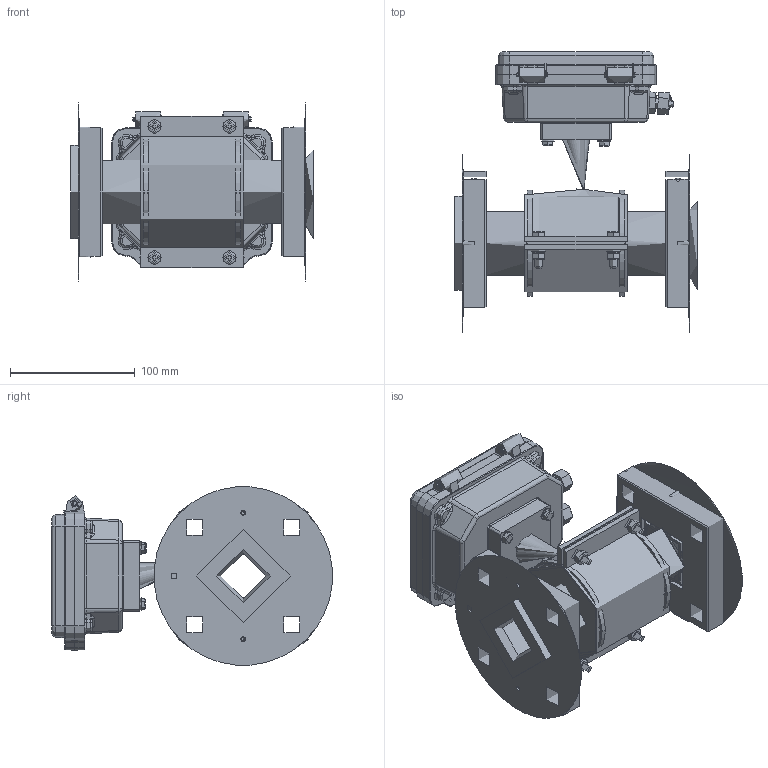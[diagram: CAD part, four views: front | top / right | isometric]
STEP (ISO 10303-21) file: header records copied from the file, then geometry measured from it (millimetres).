
FILE_DESCRIPTION(('STEP AP214'), '1');
FILE_NAME('Âçëåò ÝÐ ÏÐÎÔÈ DN40 Ôëàíåö', '', ('UNSPECIFIED'), ('UNSPECIFIED'), 'ASCON STEP Converter 1.6', 'ASCON Math Kernel', '');
FILE_SCHEMA(('AUTOMOTIVE_DESIGN { 1 0 10303 214 3 1 1}'));
Length unit declared in the file: millimetre
Products named in the file (1): 婽挭.407212.031-031.07
Bounding box: 194 x 224.44 x 142.46 mm (x, y, z)
Topology: 9 solids, 14 shells, 1273 faces, 3070 edges, 1856 vertices
Faces by surface type: plane 523, cylinder 390, cone 181, torus 139, bspline 38, sphere 2
Full cylindrical faces by diameter (mm): 0.8 x2, 2 x2, 3 x4, 3.242 x14, 3.3 x2, 3.7 x4, 4 x10, 4.134 x2, 4.917 x4, 5 x1, 5.5 x1, 6 x8, 6.3 x2, 6.4 x4, 7 x12, 7.5 x2, 8 x2, 10 x4, 11 x4, 12 x8, 12.5 x2, 16.5 x2, 18 x9, 19 x1, 20 x1, 21 x1, 25 x1, 30 x1, 36 x1, 50 x2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
Entity records: 66440 total; most frequent: CARTESIAN_POINT 22387, DIRECTION 6213, ORIENTED_EDGE 5490, EDGE_CURVE 2745, AXIS2_PLACEMENT_3D 2470, VERTEX_POINT 1826, EDGE_LOOP 1715, FACE_BOUND 1298
